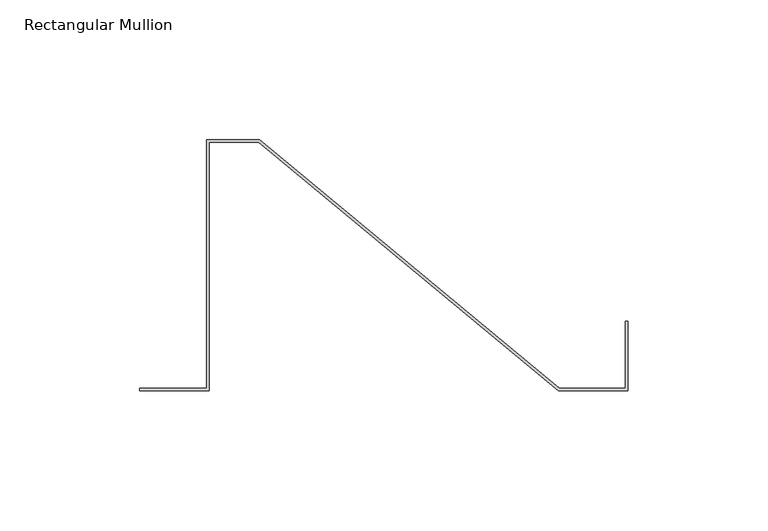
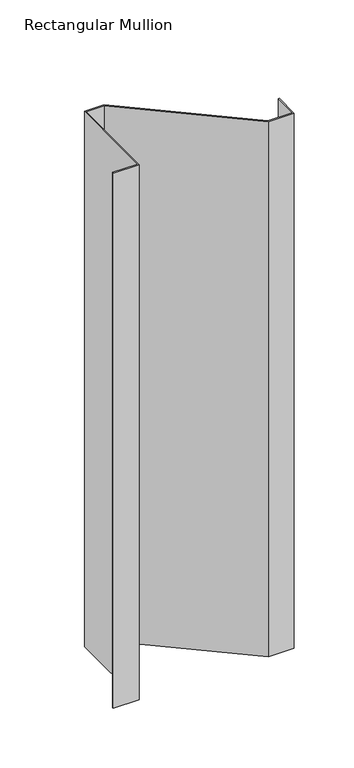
"""IFC4 building model written with IfcOpenShell, lengths in millimetres: member geometry, Rectangular Mullion : CD_NINELINE_Sawtooth End."""

from ifc_helpers import new_model, si_unit, frame, origin, place, context, project, spatial, polyline, outline, extrude, source, transform, mapped, element, save


def rectangular_mullion_b4d6a2ec(model_context):
    return source(origin(), model_context, "Body", "SweptSolid", [
        extrude(outline(polyline([(-150.0, 0.0), (-175.0, 0.0), (-175.0, 1.0), (-151.0, 1.0), (-151.0, 90.0), (-132.0120255, 90.0), (-24.587175, 1.0), (-1.0, 1.0), (-1.0, 25.0), (0.0, 25.0), (0.0, 0.0), (-25.0, 0.0), (-132.4248505, 89.0), (-150.0, 89.0), (-150.0, 0.0)])), frame((0.0, 0.0, -547.0), z_axis=(0.0, 0.0, 1.0), x_axis=(1.0, 0.0, 0.0)), (0.0, 0.0, 1.0), 547.0),
    ])


if __name__ == "__main__":
    model = new_model("IFC4")
    model_context = context("Model", 3, world=origin())
    ifc_project = project(units=[si_unit("LENGTHUNIT", "METRE", prefix="MILLI")], contexts=[model_context])
    site = spatial("IfcSite", under=ifc_project)
    building = spatial("IfcBuilding", under=site)
    placement = place(None, origin())
    rectangular_mullion_shape = rectangular_mullion_b4d6a2ec(model_context)
    element("IfcMember", 1, ObjectType="Rectangular Mullion : CD_NINELINE_Sawtooth End", at=placement, inside=building, context=model_context, shape_type="MappedRepresentation", body=[
        mapped(rectangular_mullion_shape, transform((0.0, 0.0, 0.0), x_axis=(1.0, 0.0, 0.0), y_axis=(0.0, 1.0, 0.0), z_axis=(0.0, 0.0, 1.0))),
    ])
    save(model, "model.ifc")
